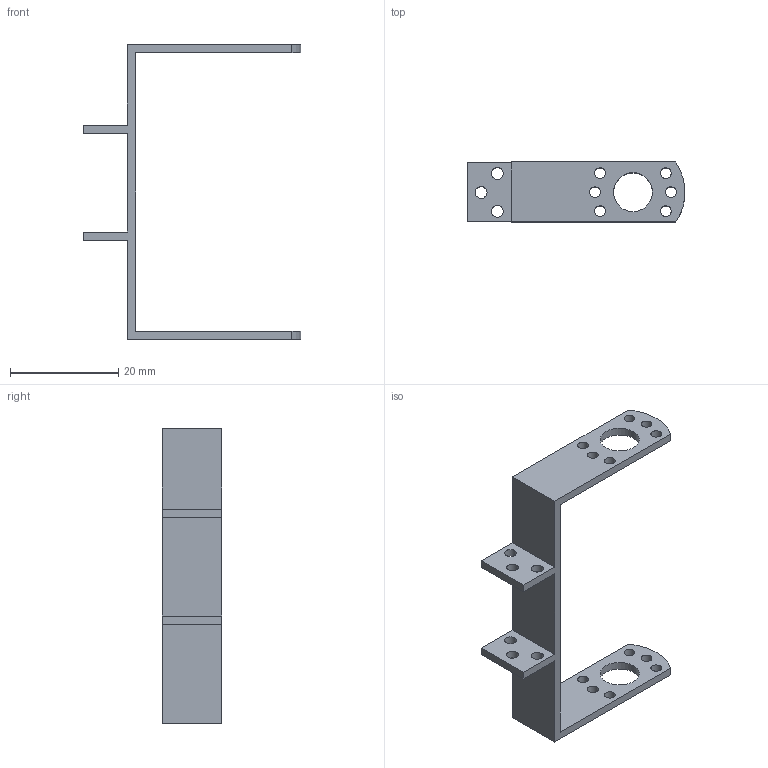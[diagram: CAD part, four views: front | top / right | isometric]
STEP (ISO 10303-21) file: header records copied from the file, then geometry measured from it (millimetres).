
FILE_DESCRIPTION(/* description */ (''),/* implementation_level */ '2;1');
FILE_NAME(/* name */ 'C:/Users/priba/Downloads/GripperCoupler.step',/* time_stamp */ '2020-06-09T22:17:00+02:00',/* author */ (''),/* organization */ (''),/* preprocessor_version */ 'ST-DEVELOPER v18.1',/* originating_system */ 'Autodesk Translation Framework v9.3.0.1241',/* authorisation */ '');
FILE_SCHEMA (('AUTOMOTIVE_DESIGN { 1 0 10303 214 3 1 1 }'));
Length unit declared in the file: millimetre
Products named in the file (2): GripperCoupler; GripperCoupler_1
Assembly tree (1 placements, depth 2):
  GripperCoupler
    GripperCoupler_1
Bounding box: 40.15 x 11 x 54.35 mm (x, y, z)
Volume: 1941.9 mm3; surface area: 3252.2 mm2
Topology: 1 solids, 1 shells, 38 faces, 108 edges, 72 vertices
Faces by surface type: cylinder 22, plane 16
Full cylindrical faces by diameter (mm): 2 x12, 2.2 x6, 7.2 x2
Entity records: 1389 total; most frequent: DIRECTION 234, CARTESIAN_POINT 221, ORIENTED_EDGE 216, EDGE_CURVE 108, AXIS2_PLACEMENT_3D 85, EDGE_LOOP 78, VERTEX_POINT 72, LINE 64
